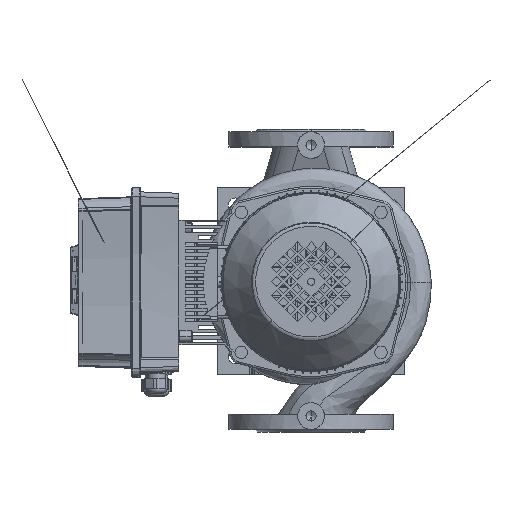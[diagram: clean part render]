
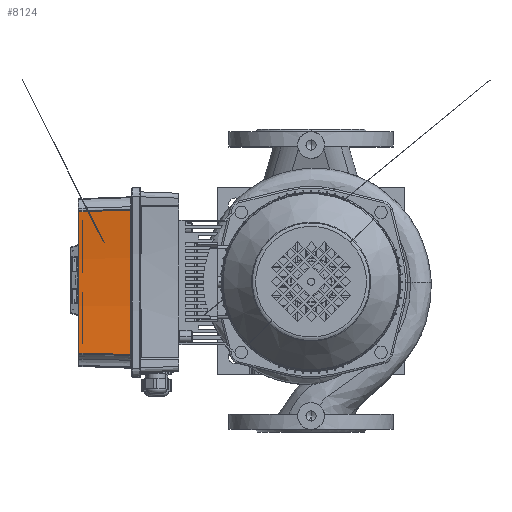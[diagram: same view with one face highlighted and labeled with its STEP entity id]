
A CAD part, top view. The second image highlights one B-rep face of the part: STEP entity #8124.
In plain terms, the highlighted conical face has half-angle 2 degrees and reference radius 845 mm.
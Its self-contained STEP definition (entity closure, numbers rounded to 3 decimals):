
#8124=ADVANCED_FACE('',(#16584),#16585,.F.);
#16584=FACE_OUTER_BOUND('',#37781,.T.);
#16585=CONICAL_SURFACE('',#37782,845.0,0.035);
#37781=EDGE_LOOP('',(#59556,#59557,#59558,#59559));
#37782=AXIS2_PLACEMENT_3D('',#59560,#59561,#59562);
#59556=ORIENTED_EDGE('',*,*,#94013,.F.);
#59557=ORIENTED_EDGE('',*,*,#94068,.F.);
#59558=ORIENTED_EDGE('',*,*,#94029,.F.);
#59559=ORIENTED_EDGE('',*,*,#94057,.F.);
#59560=CARTESIAN_POINT('',(-110.0,1132.065,60.0));
#59561=DIRECTION('',(0.,-0.0,-1.0));
#59562=DIRECTION('',(1.0,0.0,0.));
#94013=EDGE_CURVE('',#122188,#122194,#122195,.T.);
#94029=EDGE_CURVE('',#122215,#122207,#122217,.T.);
#94057=EDGE_CURVE('',#122194,#122215,#122247,.T.);
#94068=EDGE_CURVE('',#122207,#122188,#122259,.T.);
#122188=VERTEX_POINT('',#148851);
#122194=VERTEX_POINT('',#148893);
#122195=B_SPLINE_CURVE_WITH_KNOTS('',3,(#148894,#148895,#148896,#148897,#148898,#148899,#148900,#148901,#148902,#148903,#148904,#148905,#148906,#148907,#148908,#148909,#148910,#148911,#148912,#148913,#148914,#148915,#148916,#148917,#148918),.UNSPECIFIED.,.F.,.F.,(4,3,3,3,3,3,3,3,4),(-60.14,-51.629,-41.43,-35.057,-31.073,-27.089,-20.715,-10.517,-2.006),.UNSPECIFIED.);
#122207=VERTEX_POINT('',#149007);
#122215=VERTEX_POINT('',#149068);
#122217=B_SPLINE_CURVE_WITH_KNOTS('',3,(#149083,#149084,#149085,#149086,#149087,#149088,#149089,#149090,#149091,#149092,#149093,#149094,#149095,#149096,#149097,#149098,#149099,#149100,#149101,#149102,#149103,#149104,#149105,#149106,#149107),.UNSPECIFIED.,.F.,.F.,(4,3,3,3,3,3,3,3,4),(2.006,10.517,20.716,27.09,31.073,35.057,41.431,51.63,60.14),.UNSPECIFIED.);
#122247=CIRCLE('',#149298,847.062);
#122259=CIRCLE('',#149326,845.034);
#148851=CARTESIAN_POINT('',(-190.987,290.921,59.035));
#148893=CARTESIAN_POINT('',(-189.365,288.73,0.965));
#148894=CARTESIAN_POINT('',(-190.987,290.921,59.035));
#148895=CARTESIAN_POINT('',(-190.902,290.814,56.201));
#148896=CARTESIAN_POINT('',(-190.819,290.706,53.368));
#148897=CARTESIAN_POINT('',(-190.736,290.599,50.534));
#148898=CARTESIAN_POINT('',(-190.637,290.47,47.138));
#148899=CARTESIAN_POINT('',(-190.539,290.342,43.743));
#148900=CARTESIAN_POINT('',(-190.442,290.214,40.347));
#148901=CARTESIAN_POINT('',(-190.381,290.133,38.225));
#148902=CARTESIAN_POINT('',(-190.321,290.053,36.103));
#148903=CARTESIAN_POINT('',(-190.261,289.973,33.98));
#148904=CARTESIAN_POINT('',(-190.224,289.923,32.654));
#148905=CARTESIAN_POINT('',(-190.187,289.873,31.327));
#148906=CARTESIAN_POINT('',(-190.15,289.823,30.001));
#148907=CARTESIAN_POINT('',(-190.113,289.773,28.675));
#148908=CARTESIAN_POINT('',(-190.076,289.723,27.348));
#148909=CARTESIAN_POINT('',(-190.04,289.673,26.022));
#148910=CARTESIAN_POINT('',(-189.981,289.593,23.899));
#148911=CARTESIAN_POINT('',(-189.923,289.513,21.777));
#148912=CARTESIAN_POINT('',(-189.865,289.433,19.655));
#148913=CARTESIAN_POINT('',(-189.772,289.305,16.259));
#148914=CARTESIAN_POINT('',(-189.681,289.177,12.863));
#148915=CARTESIAN_POINT('',(-189.59,289.049,9.467));
#148916=CARTESIAN_POINT('',(-189.515,288.943,6.633));
#148917=CARTESIAN_POINT('',(-189.44,288.836,3.799));
#148918=CARTESIAN_POINT('',(-189.365,288.73,0.965));
#149007=CARTESIAN_POINT('',(-29.013,290.921,59.035));
#149068=CARTESIAN_POINT('',(-30.635,288.73,0.965));
#149083=CARTESIAN_POINT('',(-30.635,288.73,0.965));
#149084=CARTESIAN_POINT('',(-30.56,288.836,3.799));
#149085=CARTESIAN_POINT('',(-30.485,288.943,6.633));
#149086=CARTESIAN_POINT('',(-30.41,289.049,9.467));
#149087=CARTESIAN_POINT('',(-30.319,289.177,12.863));
#149088=CARTESIAN_POINT('',(-30.228,289.305,16.259));
#149089=CARTESIAN_POINT('',(-30.135,289.433,19.654));
#149090=CARTESIAN_POINT('',(-30.077,289.513,21.777));
#149091=CARTESIAN_POINT('',(-30.019,289.593,23.899));
#149092=CARTESIAN_POINT('',(-29.96,289.673,26.022));
#149093=CARTESIAN_POINT('',(-29.924,289.723,27.348));
#149094=CARTESIAN_POINT('',(-29.887,289.773,28.674));
#149095=CARTESIAN_POINT('',(-29.85,289.823,30.001));
#149096=CARTESIAN_POINT('',(-29.813,289.873,31.327));
#149097=CARTESIAN_POINT('',(-29.776,289.923,32.654));
#149098=CARTESIAN_POINT('',(-29.739,289.973,33.98));
#149099=CARTESIAN_POINT('',(-29.679,290.053,36.103));
#149100=CARTESIAN_POINT('',(-29.619,290.133,38.225));
#149101=CARTESIAN_POINT('',(-29.558,290.214,40.347));
#149102=CARTESIAN_POINT('',(-29.461,290.342,43.743));
#149103=CARTESIAN_POINT('',(-29.363,290.47,47.139));
#149104=CARTESIAN_POINT('',(-29.264,290.599,50.534));
#149105=CARTESIAN_POINT('',(-29.181,290.706,53.368));
#149106=CARTESIAN_POINT('',(-29.098,290.814,56.201));
#149107=CARTESIAN_POINT('',(-29.013,290.921,59.035));
#149298=AXIS2_PLACEMENT_3D('',#178575,#178576,#178577);
#149326=AXIS2_PLACEMENT_3D('',#178587,#178588,#178589);
#178575=CARTESIAN_POINT('',(-110.0,1132.065,0.965));
#178576=DIRECTION('',(0.,0.,1.0));
#178577=DIRECTION('',(0.0,-1.0,0.));
#178587=CARTESIAN_POINT('',(-110.0,1132.065,59.035));
#178588=DIRECTION('',(-0.0,-0.0,-1.0));
#178589=DIRECTION('',(0.0,-1.0,0.0));
